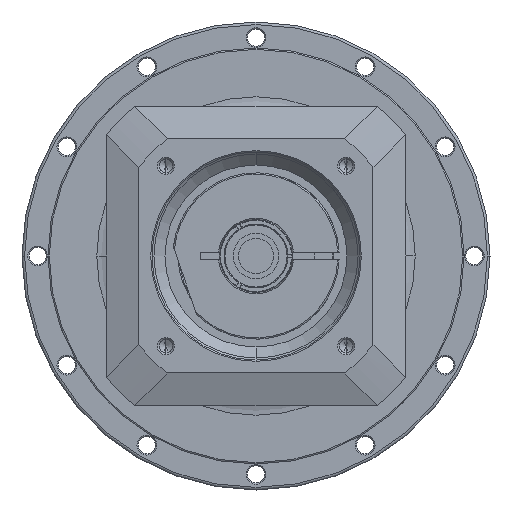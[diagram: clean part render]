
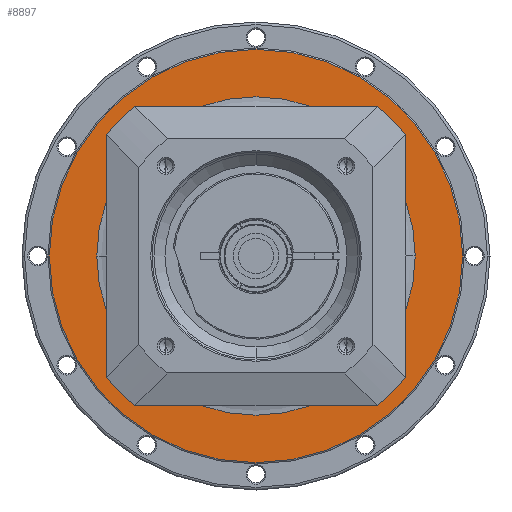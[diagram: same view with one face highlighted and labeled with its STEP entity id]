
A CAD part, left-side view. The second image highlights one B-rep face of the part: STEP entity #8897.
In plain terms, the highlighted planar face has unit normal (-1, 0, 0) as drawn and (1, 0, 0) by its records, which use the part's own axes.
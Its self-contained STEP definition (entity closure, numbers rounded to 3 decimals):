
#7928=CARTESIAN_POINT('',(-19.5,0.,0.));
#7929=DIRECTION('',(-1.,0.,0.));
#7930=DIRECTION('',(0.,-1.,0.));
#7931=AXIS2_PLACEMENT_3D('',#7928,#7929,#7930);
#7933=CARTESIAN_POINT('',(-19.5,0.,0.));
#7934=DIRECTION('',(-1.,0.,0.));
#7935=DIRECTION('',(0.,1.,0.));
#7936=AXIS2_PLACEMENT_3D('',#7933,#7934,#7935);
#7938=CARTESIAN_POINT('',(-19.5,0.,0.));
#7939=DIRECTION('',(-1.,0.,0.));
#7940=DIRECTION('',(0.,-1.,0.));
#7941=AXIS2_PLACEMENT_3D('',#7938,#7939,#7940);
#7943=CARTESIAN_POINT('',(-19.5,0.,0.));
#7944=DIRECTION('',(-1.,0.,0.));
#7945=DIRECTION('',(0.,1.,0.));
#7946=AXIS2_PLACEMENT_3D('',#7943,#7944,#7945);
#8176=CARTESIAN_POINT('',(-19.5,-79.5,0.));
#8177=CARTESIAN_POINT('',(-19.5,79.5,0.));
#8178=VERTEX_POINT('',#8176);
#8179=VERTEX_POINT('',#8177);
#8192=CARTESIAN_POINT('',(-19.5,-61.25,0.));
#8193=CARTESIAN_POINT('',(-19.5,61.25,0.));
#8194=VERTEX_POINT('',#8192);
#8195=VERTEX_POINT('',#8193);
#8882=CARTESIAN_POINT('',(-19.5,0.,0.));
#8883=DIRECTION('',(1.,0.,0.));
#8884=DIRECTION('',(0.,-1.,0.));
#8885=AXIS2_PLACEMENT_3D('',#8882,#8883,#8884);
#8886=PLANE('',#8885);
#8887=ORIENTED_EDGE('',*,*,#8838,.T.);
#8888=ORIENTED_EDGE('',*,*,#8823,.T.);
#8889=EDGE_LOOP('',(#8887,#8888));
#8890=FACE_OUTER_BOUND('',#8889,.F.);
#8892=ORIENTED_EDGE('',*,*,#8891,.F.);
#8894=ORIENTED_EDGE('',*,*,#8893,.F.);
#8895=EDGE_LOOP('',(#8892,#8894));
#8896=FACE_BOUND('',#8895,.F.);
#8897=ADVANCED_FACE('',(#8890,#8896),#8886,.T.);
#7932=CIRCLE('',#7931,61.25);
#7937=CIRCLE('',#7936,61.25);
#7942=CIRCLE('',#7941,79.5);
#7947=CIRCLE('',#7946,79.5);
#8823=EDGE_CURVE('',#8179,#8178,#7947,.T.);
#8838=EDGE_CURVE('',#8178,#8179,#7942,.T.);
#8891=EDGE_CURVE('',#8194,#8195,#7932,.T.);
#8893=EDGE_CURVE('',#8195,#8194,#7937,.T.);
